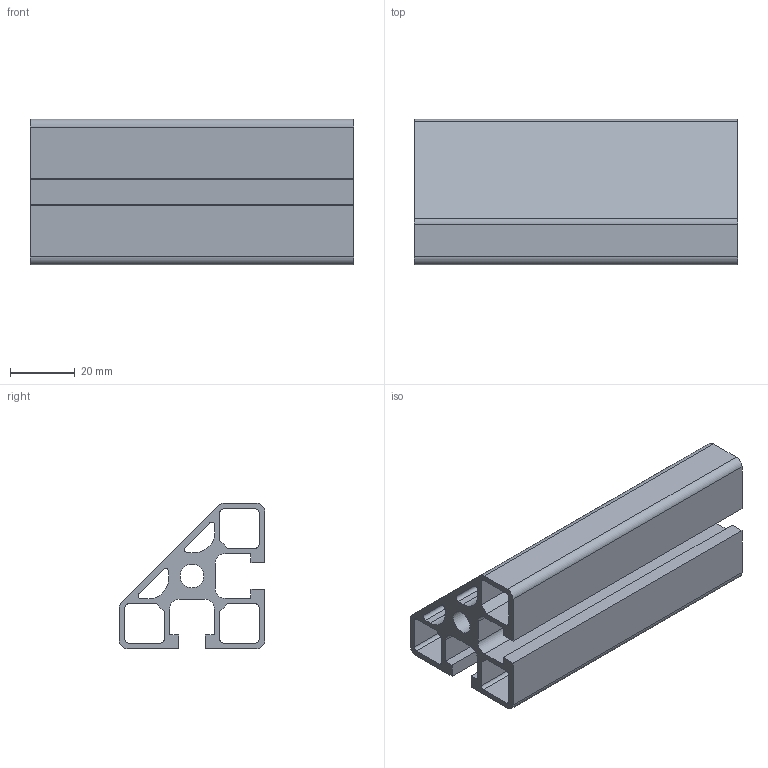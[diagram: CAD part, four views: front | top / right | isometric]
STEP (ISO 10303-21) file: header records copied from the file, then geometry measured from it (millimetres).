
FILE_DESCRIPTION(/* description */ ('STEP AP203'),/* implementation_level */ '2;1');
FILE_NAME(/* name */ 'C:\Users\Stefan.Nesic\Desktop\01010STEP\000Verifica\CORRETTI\PS4545T.stp',/* time_stamp */ '2022-07-12T12:17:50+02:00',/* author */ (''),/* organization */ (''),/* preprocessor_version */ 'ST-DEVELOPER v18.1',/* originating_system */ 'Autodesk Inventor 2021',/* authorisation */ '');
FILE_SCHEMA (('AUTOMOTIVE_DESIGN { 1 0 10303 214 3 1 1 }'));
Length unit declared in the file: millimetre
Products named in the file (1): PS4545T
Bounding box: 100 x 45 x 45 mm (x, y, z)
Volume: 59092.9 mm3; surface area: 46691.8 mm2
Topology: 1 solids, 1 shells, 69 faces, 201 edges, 134 vertices
Faces by surface type: plane 44, cylinder 25
Full cylindrical faces by diameter (mm): 7.3 x1
Entity records: 2350 total; most frequent: CARTESIAN_POINT 405, ORIENTED_EDGE 402, DIRECTION 391, EDGE_CURVE 201, LINE 151, VECTOR 151, VERTEX_POINT 134, AXIS2_PLACEMENT_3D 120
